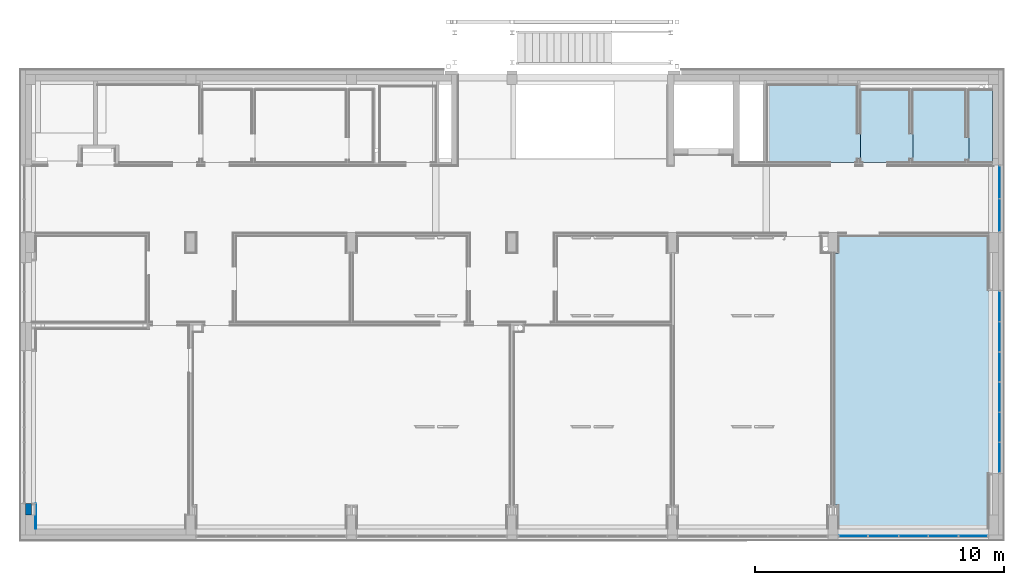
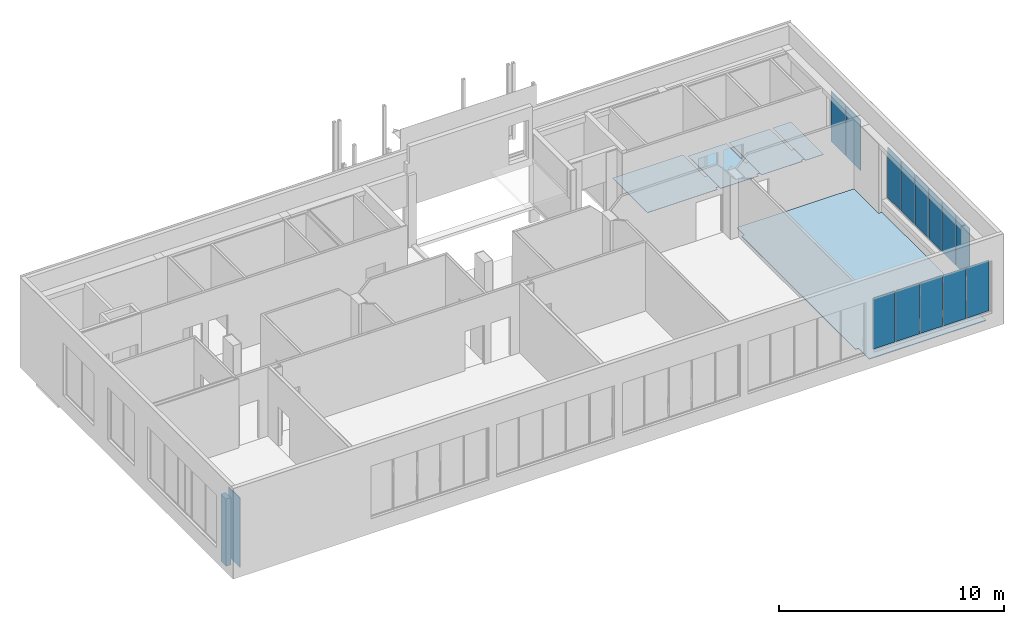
# One storey, part 15 of 29: 13 plates, 5 slabs, 2 walls, 3 elements without a shape of their own.
"""IFC2X3 building model written with IfcOpenShell, lengths in centimetres."""

from ifc_helpers import new_model, entity, si_unit, converted_unit, derived_unit, direction, frame, frame_2d, origin, origin_2d_with_axis, place, context, subcontext, project, spatial, polyline, rectangle, outline, extrude, source, transform, mapped, material, layer, layer_set, layer_usage, type_object, type_shapes, element, aggregate, save


model = new_model("IFC2X3")

# Units and contexts
model_context = context("Model", 3, precision=0.001, world=origin(), true_north=direction((6.12303176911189e-17, 1.0)))
body_context = subcontext(model_context, "Body", "Model", "MODEL_VIEW")
ifc_project = project(units=[si_unit("LENGTHUNIT", "METRE", prefix="CENTI"), si_unit("AREAUNIT", "SQUARE_METRE"), si_unit("VOLUMEUNIT", "CUBIC_METRE"), converted_unit("PLANEANGLEUNIT", "DEGREE", entity("IfcRatioMeasure", 0.0174532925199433), si_unit("PLANEANGLEUNIT", "RADIAN"), dimensions=[0, 0, 0, 0, 0, 0, 0]), si_unit("MASSUNIT", "GRAM", prefix="KILO"), derived_unit("MASSDENSITYUNIT", [(si_unit("MASSUNIT", "GRAM", prefix="KILO"), 1), (si_unit("LENGTHUNIT", "METRE"), -3)]), derived_unit("MOMENTOFINERTIAUNIT", [(si_unit("LENGTHUNIT", "METRE"), 4)]), si_unit("TIMEUNIT", "SECOND"), si_unit("FREQUENCYUNIT", "HERTZ"), si_unit("THERMODYNAMICTEMPERATUREUNIT", "DEGREE_CELSIUS"), derived_unit("THERMALTRANSMITTANCEUNIT", [(si_unit("MASSUNIT", "GRAM", prefix="KILO"), 1), (si_unit("THERMODYNAMICTEMPERATUREUNIT", "KELVIN"), -1), (si_unit("TIMEUNIT", "SECOND"), -3)]), derived_unit("VOLUMETRICFLOWRATEUNIT", [(si_unit("LENGTHUNIT", "METRE"), 3), (si_unit("TIMEUNIT", "SECOND"), -1)]), si_unit("ELECTRICCURRENTUNIT", "AMPERE"), si_unit("ELECTRICVOLTAGEUNIT", "VOLT"), si_unit("POWERUNIT", "WATT"), si_unit("FORCEUNIT", "NEWTON", prefix="KILO"), si_unit("ILLUMINANCEUNIT", "LUX"), si_unit("LUMINOUSFLUXUNIT", "LUMEN"), si_unit("LUMINOUSINTENSITYUNIT", "CANDELA"), derived_unit("USERDEFINED", [(si_unit("MASSUNIT", "GRAM", prefix="KILO"), -1), (si_unit("LENGTHUNIT", "METRE"), -2), (si_unit("TIMEUNIT", "SECOND"), 3), (si_unit("LUMINOUSFLUXUNIT", "LUMEN"), 1)]), derived_unit("LINEARVELOCITYUNIT", [(si_unit("LENGTHUNIT", "METRE"), 1), (si_unit("TIMEUNIT", "SECOND"), -1)]), si_unit("PRESSUREUNIT", "PASCAL"), derived_unit("USERDEFINED", [(si_unit("LENGTHUNIT", "METRE"), -2), (si_unit("MASSUNIT", "GRAM", prefix="KILO"), 1), (si_unit("TIMEUNIT", "SECOND"), -2)]), derived_unit("LINEARFORCEUNIT", [(si_unit("MASSUNIT", "GRAM", prefix="KILO"), 1), (si_unit("LENGTHUNIT", "METRE"), 1), (si_unit("TIMEUNIT", "SECOND"), -2), (si_unit("LENGTHUNIT", "METRE"), -1)]), derived_unit("PLANARFORCEUNIT", [(si_unit("MASSUNIT", "GRAM", prefix="KILO"), 1), (si_unit("LENGTHUNIT", "METRE"), 1), (si_unit("TIMEUNIT", "SECOND"), -2), (si_unit("LENGTHUNIT", "METRE"), -2)])], contexts=[model_context])

# Site, building, storey
site_placement = place(None, origin())
site = spatial("IfcSite", under=ifc_project, at=site_placement, Name="Default", CompositionType="ELEMENT")
building_placement = place(site_placement, origin())
building = spatial("IfcBuilding", under=site, at=building_placement, CompositionType="ELEMENT")
storey_placement = place(building_placement, frame((0.0, 0.0, 545.0)))
storey = spatial("IfcBuildingStorey", under=building, at=storey_placement, Name="Poziom 1K +5,45", CompositionType="ELEMENT", Elevation=544.999999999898)

# Slab
ifc_material_1 = material(Name="Panel płyty podłogowej")
ifc_layer_1 = layer(ifc_material_1, 4.0)
ifc_layer_set_1 = layer_set([ifc_layer_1], Name="Strop:Podłoga podniesiona gr. 4cm")
ifc_layer_usage_1 = layer_usage(ifc_layer_set_1, "AXIS3", "POSITIVE", 0.0)
slab_type_1 = type_object("IfcSlabType", Name="Strop:Podłoga podniesiona gr. 4cm", PredefinedType="FLOOR", material=ifc_layer_set_1)
slab_1_placement = place(storey_placement, origin())
element("IfcSlab", 1, at=slab_1_placement, inside=storey, type_object=slab_type_1, material=ifc_layer_usage_1, Name="Strop:Podłoga podniesiona gr. 4cm", ObjectType="Strop:Podłoga podniesiona gr. 4cm", PredefinedType="FLOOR", context=body_context, shape_type="SweptSolid", body=[
    extrude(outline(polyline([(-497.916370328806, -315.416670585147), (514.583629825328, -315.416670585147), (514.583629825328, -300.416670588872), (582.083629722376, -300.416670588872), (582.083629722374, 299.583340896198), (362.582640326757, 299.583340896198), (362.582640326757, 317.083341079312), (-368.417364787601, 317.083341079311), (-368.417364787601, 299.583329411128), (-592.916164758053, 299.583329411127), (-592.916164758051, -300.416670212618), (-497.916370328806, -300.416670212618), (-497.916370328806, -315.416670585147)])), frame((633.651549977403, 873.043822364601, 15.0), z_axis=(0.0, 0.0, -1.0), x_axis=(0.0, 1.0, 0.0)), (0.0, 0.0, 1.0), 3.99999999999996),
])

# Curtain wall, plates
curtain_wall_type = type_object("IfcCurtainWallType", PredefinedType="NOTDEFINED")
curtain_wall_1_placement = place(storey_placement, frame((0.0, 0.0, -545.0)))
curtain_wall_1 = element("IfcCurtainWall", 2, at=curtain_wall_1_placement, inside=storey, type_object=curtain_wall_type)
ifc_material_2 = material(Name="Szkło")
plate_type_1 = type_object("IfcPlateType", Name="Panel systemowy:Przeszklony", PredefinedType="CURTAIN_PANEL", material=ifc_material_2)
shared_shape_1 = source(origin(), body_context, "Body", "SweptSolid", [
    extrude(rectangle(XDim=2.5, YDim=118.4999790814, at=frame_2d((0.0, 3.5527136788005e-15), x_axis=(1.0, 0.0))), frame((0.0, 0.0, 0.0), z_axis=(0.0, 0.0, 1.0), x_axis=(0.0, 1.0, 0.0)), (0.0, 0.0, 1.0), 274.99999999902),
])
type_shapes(plate_type_1, [shared_shape_1])
plate_1_placement = place(curtain_wall_1_placement, frame((513.48780199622, 251.127657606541, 630.0)))
plate_1 = element("IfcPlate", 3, at=plate_1_placement, type_object=plate_type_1, material=ifc_material_2, Name="Panel systemowy:Przeszklony", ObjectType="Panel systemowy:Przeszklony", context=body_context, shape_type="MappedRepresentation", body=[
    mapped(shared_shape_1, transform((0.0, 0.0, 0.0), scale=1.0)),
])
plate_type_2 = type_object("IfcPlateType", Name="Panel systemowy:Przeszklony", PredefinedType="CURTAIN_PANEL", material=ifc_material_2)
shared_shape_2 = source(origin(), body_context, "Body", "SweptSolid", [
    extrude(rectangle(XDim=2.5, YDim=113.500007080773, at=origin_2d_with_axis()), frame((0.0, 0.0, 0.0), z_axis=(0.0, 0.0, 1.0), x_axis=(0.0, 1.0, 0.0)), (0.0, 0.0, 1.0), 274.99999999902),
])
type_shapes(plate_type_2, [shared_shape_2])
plate_2_placement = place(curtain_wall_1_placement, frame((634.487795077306, 251.127657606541, 630.0)))
plate_2 = element("IfcPlate", 4, at=plate_2_placement, type_object=plate_type_2, material=ifc_material_2, Name="Panel systemowy:Przeszklony", ObjectType="Panel systemowy:Przeszklony", context=body_context, shape_type="MappedRepresentation", body=[
    mapped(shared_shape_2, transform((0.0, 0.0, 0.0), scale=1.0)),
])
plate_type_3 = type_object("IfcPlateType", Name="Panel systemowy:Przeszklony", PredefinedType="CURTAIN_PANEL", material=ifc_material_2)
shared_shape_3 = source(origin(), body_context, "Body", "SweptSolid", [
    extrude(rectangle(XDim=2.5, YDim=115.999999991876, at=origin_2d_with_axis()), frame((0.0, 0.0, 0.0), z_axis=(0.0, 0.0, 1.0), x_axis=(0.0, 1.0, 0.0)), (0.0, 0.0, 1.0), 274.99999999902),
])
type_shapes(plate_type_3, [shared_shape_3])
plate_3_placement = place(curtain_wall_1_placement, frame((754.237798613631, 251.127657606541, 630.0)))
plate_3 = element("IfcPlate", 5, at=plate_3_placement, type_object=plate_type_3, material=ifc_material_2, Name="Panel systemowy:Przeszklony", ObjectType="Panel systemowy:Przeszklony", context=body_context, shape_type="MappedRepresentation", body=[
    mapped(shared_shape_3, transform((0.0, 0.0, 0.0), scale=1.0)),
])

curtain_wall_2_placement = place(storey_placement, frame((0.0, 0.0, -545.0)))
curtain_wall_2 = element("IfcCurtainWall", 6, at=curtain_wall_2_placement, inside=storey, type_object=curtain_wall_type)
plate_4_placement = place(curtain_wall_2_placement, frame((979.734891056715, 809.627246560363, 630.0), z_axis=(0.0, 0.0, 1.0), x_axis=(0.0, 1.0, 0.0)))
plate_4 = element("IfcPlate", 7, at=plate_4_placement, type_object=plate_type_3, material=ifc_material_2, Name="Panel systemowy:Przeszklony", ObjectType="Panel systemowy:Przeszklony", context=body_context, shape_type="MappedRepresentation", body=[
    mapped(shared_shape_3, transform((0.0, 0.0, 0.0), scale=1.0)),
])
plate_5_placement = place(curtain_wall_2_placement, frame((979.734891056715, 930.627246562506, 630.0), z_axis=(0.0, 0.0, 1.0), x_axis=(0.0, 1.0, 0.0)))
plate_5 = element("IfcPlate", 8, at=plate_5_placement, type_object=plate_type_3, material=ifc_material_2, Name="Panel systemowy:Przeszklony", ObjectType="Panel systemowy:Przeszklony", context=body_context, shape_type="MappedRepresentation", body=[
    mapped(shared_shape_3, transform((0.0, 0.0, 0.0), scale=1.0)),
])

# Plate
plate_type_4 = type_object("IfcPlateType", Name="Panel systemowy:Przeszklony", PredefinedType="CURTAIN_PANEL", material=ifc_material_2)
shared_shape_4 = source(origin(), body_context, "Body", "SweptSolid", [
    extrude(rectangle(XDim=2.5, YDim=113.502921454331, at=origin_2d_with_axis()), frame((0.0, 0.0, 0.0), z_axis=(0.0, 0.0, 1.0), x_axis=(0.0, 1.0, 0.0)), (0.0, 0.0, 1.0), 274.99999999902),
])
type_shapes(plate_type_4, [shared_shape_4])
plate_6_placement = place(curtain_wall_1_placement, frame((392.486351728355, 251.127657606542, 630.0)))
plate_6 = element("IfcPlate", 9, at=plate_6_placement, type_object=plate_type_4, material=ifc_material_2, Name="Panel systemowy:Przeszklony", ObjectType="Panel systemowy:Przeszklony", context=body_context, shape_type="MappedRepresentation", body=[
    mapped(shared_shape_4, transform((0.0, 0.0, 0.0), scale=1.0)),
])

plate_type_5 = type_object("IfcPlateType", Name="Panel systemowy:Przeszklony", PredefinedType="CURTAIN_PANEL", material=ifc_material_2)
shared_shape_5 = source(origin(), body_context, "Body", "SweptSolid", [
    extrude(rectangle(XDim=2.5, YDim=113.497093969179, at=origin_2d_with_axis()), frame((0.0, 0.0, 0.0), z_axis=(0.0, 0.0, 1.0), x_axis=(0.0, 1.0, 0.0)), (0.0, 0.0, 1.0), 274.99999999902),
])
type_shapes(plate_type_5, [shared_shape_5])
plate_7_placement = place(curtain_wall_1_placement, frame((873.986345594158, 251.12765760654, 630.0)))
plate_7 = element("IfcPlate", 10, at=plate_7_placement, type_object=plate_type_5, material=ifc_material_2, Name="Panel systemowy:Przeszklony", ObjectType="Panel systemowy:Przeszklony", context=body_context, shape_type="MappedRepresentation", body=[
    mapped(shared_shape_5, transform((0.0, 0.0, 0.0), scale=1.0)),
])

aggregate(curtain_wall_1, [plate_6, plate_1, plate_2, plate_3, plate_7])

plate_type_6 = type_object("IfcPlateType", Name="Panel systemowy:Przeszklony", PredefinedType="CURTAIN_PANEL", material=ifc_material_2)
shared_shape_6 = source(origin(), body_context, "Body", "SweptSolid", [
    extrude(rectangle(XDim=2.5, YDim=118.5, at=origin_2d_with_axis()), frame((0.0, 0.0, 0.0), z_axis=(0.0, 0.0, 1.0), x_axis=(0.0, 1.0, 0.0)), (0.0, 0.0, 1.0), 275.000000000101),
])
type_shapes(plate_type_6, [shared_shape_6])
plate_8_placement = place(curtain_wall_2_placement, frame((979.734891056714, 566.376457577, 630.0), z_axis=(0.0, 0.0, 1.0), x_axis=(0.0, 1.0, 0.0)))
plate_8 = element("IfcPlate", 11, at=plate_8_placement, type_object=plate_type_6, material=ifc_material_2, Name="Panel systemowy:Przeszklony", ObjectType="Panel systemowy:Przeszklony", context=body_context, shape_type="MappedRepresentation", body=[
    mapped(shared_shape_6, transform((0.0, 0.0, 0.0), scale=1.0)),
])

plate_type_7 = type_object("IfcPlateType", Name="Panel systemowy:Przeszklony", PredefinedType="CURTAIN_PANEL", material=ifc_material_2)
shared_shape_7 = source(origin(), body_context, "Body", "SweptSolid", [
    extrude(rectangle(XDim=2.5, YDim=116.000788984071, at=origin_2d_with_axis()), frame((0.0, 0.0, 0.0), z_axis=(0.0, 0.0, 1.0), x_axis=(0.0, 1.0, 0.0)), (0.0, 0.0, 1.0), 275.000000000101),
])
type_shapes(plate_type_7, [shared_shape_7])
plate_9_placement = place(curtain_wall_2_placement, frame((979.734891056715, 688.626852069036, 630.0), z_axis=(0.0, 0.0, 1.0), x_axis=(0.0, 1.0, 0.0)))
plate_9 = element("IfcPlate", 12, at=plate_9_placement, type_object=plate_type_7, material=ifc_material_2, Name="Panel systemowy:Przeszklony", ObjectType="Panel systemowy:Przeszklony", context=body_context, shape_type="MappedRepresentation", body=[
    mapped(shared_shape_7, transform((0.0, 0.0, 0.0), scale=1.0)),
])

plate_type_8 = type_object("IfcPlateType", Name="Panel systemowy:Przeszklony", PredefinedType="CURTAIN_PANEL", material=ifc_material_2)
shared_shape_8 = source(origin(), body_context, "Body", "SweptSolid", [
    extrude(rectangle(XDim=2.5, YDim=116.000204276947, at=origin_2d_with_axis()), frame((0.0, 0.0, 0.0), z_axis=(0.0, 0.0, 1.0), x_axis=(0.0, 1.0, 0.0)), (0.0, 0.0, 1.0), 275.000000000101),
])
type_shapes(plate_type_8, [shared_shape_8])
plate_10_placement = place(curtain_wall_2_placement, frame((979.734891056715, 1051.62734870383, 630.0), z_axis=(0.0, 0.0, 1.0), x_axis=(0.0, 1.0, 0.0)))
plate_10 = element("IfcPlate", 13, at=plate_10_placement, type_object=plate_type_8, material=ifc_material_2, Name="Panel systemowy:Przeszklony", ObjectType="Panel systemowy:Przeszklony", context=body_context, shape_type="MappedRepresentation", body=[
    mapped(shared_shape_8, transform((0.0, 0.0, 0.0), scale=1.0)),
])

plate_type_9 = type_object("IfcPlateType", Name="Panel systemowy:Przeszklony", PredefinedType="CURTAIN_PANEL", material=ifc_material_2)
shared_shape_9 = source(origin(), body_context, "Body", "SweptSolid", [
    extrude(rectangle(XDim=2.5, YDim=118.499006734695, at=origin_2d_with_axis()), frame((0.0, 0.0, 0.0), z_axis=(0.0, 0.0, 1.0), x_axis=(0.0, 1.0, 0.0)), (0.0, 0.0, 1.0), 275.000000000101),
])
type_shapes(plate_type_9, [shared_shape_9])
plate_11_placement = place(curtain_wall_2_placement, frame((979.734891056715, 1173.87695420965, 630.0), z_axis=(0.0, 0.0, 1.0), x_axis=(0.0, 1.0, 0.0)))
plate_11 = element("IfcPlate", 14, at=plate_11_placement, type_object=plate_type_9, material=ifc_material_2, Name="Panel systemowy:Przeszklony", ObjectType="Panel systemowy:Przeszklony", context=body_context, shape_type="MappedRepresentation", body=[
    mapped(shared_shape_9, transform((0.0, 0.0, 0.0), scale=1.0)),
])

aggregate(curtain_wall_2, [plate_8, plate_9, plate_4, plate_5, plate_10, plate_11])

# Curtain wall, plates
curtain_wall_3_placement = place(storey_placement, frame((0.0, 0.0, -545.0)))
curtain_wall_3 = element("IfcCurtainWall", 15, at=curtain_wall_3_placement, inside=storey, type_object=curtain_wall_type)
plate_type_10 = type_object("IfcPlateType", Name="Panel systemowy:Przeszklony", PredefinedType="CURTAIN_PANEL", material=ifc_material_2)
shared_shape_10 = source(origin(), body_context, "Body", "SweptSolid", [
    extrude(rectangle(XDim=2.5, YDim=128.999795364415, at=origin_2d_with_axis()), frame((0.0, 0.0, 0.0), z_axis=(0.0, 0.0, 1.0), x_axis=(0.0, 1.0, 0.0)), (0.0, 0.0, 1.0), 275.000000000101),
])
type_shapes(plate_type_10, [shared_shape_10])
plate_12_placement = place(curtain_wall_3_placement, frame((979.735011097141, 1539.62734859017, 630.0), z_axis=(0.0, 0.0, 1.0), x_axis=(0.0, 1.0, 0.0)))
plate_12 = element("IfcPlate", 16, at=plate_12_placement, type_object=plate_type_10, material=ifc_material_2, Name="Panel systemowy:Przeszklony", ObjectType="Panel systemowy:Przeszklony", context=body_context, shape_type="MappedRepresentation", body=[
    mapped(shared_shape_10, transform((0.0, 0.0, 0.0), scale=1.0)),
])
plate_type_11 = type_object("IfcPlateType", Name="Panel systemowy:Przeszklony", PredefinedType="CURTAIN_PANEL", material=ifc_material_2)
shared_shape_11 = source(origin(), body_context, "Body", "SweptSolid", [
    extrude(rectangle(XDim=2.5, YDim=129.000204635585, at=origin_2d_with_axis()), frame((0.0, 0.0, 0.0), z_axis=(0.0, 0.0, 1.0), x_axis=(0.0, 1.0, 0.0)), (0.0, 0.0, 1.0), 275.000000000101),
])
type_shapes(plate_type_11, [shared_shape_11])
plate_13_placement = place(curtain_wall_3_placement, frame((979.735011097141, 1673.62734859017, 630.0), z_axis=(0.0, 0.0, 1.0), x_axis=(0.0, 1.0, 0.0)))
plate_13 = element("IfcPlate", 17, at=plate_13_placement, type_object=plate_type_11, material=ifc_material_2, Name="Panel systemowy:Przeszklony", ObjectType="Panel systemowy:Przeszklony", context=body_context, shape_type="MappedRepresentation", body=[
    mapped(shared_shape_11, transform((0.0, 0.0, 0.0), scale=1.0)),
])
aggregate(curtain_wall_3, [plate_12, plate_13])

# Slabs
ifc_material_3 = material(Name="Gres")
ifc_layer_2 = layer(ifc_material_3, 2.0)
ifc_layer_set_2 = layer_set([ifc_layer_2], Name="Strop:Gres na kleju gr. 2cm")
ifc_layer_usage_2 = layer_usage(ifc_layer_set_2, "AXIS3", "POSITIVE", 0.0)
slab_type_2 = type_object("IfcSlabType", Name="Strop:Gres na kleju gr. 2cm", PredefinedType="FLOOR", material=ifc_layer_set_2)
slab_2_placement = place(storey_placement, origin())
element("IfcSlab", 18, at=slab_2_placement, inside=storey, type_object=slab_type_2, material=ifc_layer_usage_2, Name="Strop:Gres na kleju gr. 2cm", ObjectType="Strop:Gres na kleju gr. 2cm", PredefinedType="FLOOR", context=body_context, shape_type="SweptSolid", body=[
    extrude(rectangle(XDim=289.500000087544, YDim=93.9999999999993, at=frame_2d((0.0, -5.6843418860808e-14), x_axis=(1.0, 0.0))), frame((903.734879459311, 1897.87745214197, 15.0), z_axis=(0.0, 0.0, -1.0), x_axis=(0.0, 1.0, 0.0)), (0.0, 0.0, 1.0), 1.99999999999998),
])
ifc_layer_usage_3 = layer_usage(ifc_layer_set_2, "AXIS3", "POSITIVE", 0.0)
slab_type_3 = type_object("IfcSlabType", Name="Strop:Gres na kleju gr. 2cm", PredefinedType="FLOOR", material=ifc_layer_set_2)
slab_3_placement = place(storey_placement, origin())
element("IfcSlab", 19, at=slab_3_placement, inside=storey, type_object=slab_type_3, material=ifc_layer_usage_3, Name="Strop:Gres na kleju gr. 2cm", ObjectType="Strop:Gres na kleju gr. 2cm", PredefinedType="FLOOR", context=body_context, shape_type="SweptSolid", body=[
    extrude(outline(polyline([(-109.875000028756, -273.750000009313), (199.625000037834, -273.750000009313), (199.625000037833, 86.2499999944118), (5.12499999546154, 86.2499999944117), (5.12499999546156, 101.250000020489), (-94.8750000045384, 101.250000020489), (-94.8750000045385, 86.2499999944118), (-109.875000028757, 86.2499999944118), (-109.875000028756, -273.750000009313)])), frame((320.484879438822, 1863.00245201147, 15.0), z_axis=(0.0, 0.0, -1.0), x_axis=(0.0, 1.0, 0.0)), (0.0, 0.0, 1.0), 1.99999999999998),
])
ifc_layer_usage_4 = layer_usage(ifc_layer_set_2, "AXIS3", "POSITIVE", 0.0)
slab_type_4 = type_object("IfcSlabType", Name="Strop:Gres na kleju gr. 2cm", PredefinedType="FLOOR", material=ifc_layer_set_2)
slab_4_placement = place(storey_placement, origin())
element("IfcSlab", 20, at=slab_4_placement, inside=storey, type_object=slab_type_4, material=ifc_layer_usage_4, Name="Strop:Gres na kleju gr. 2cm", ObjectType="Strop:Gres na kleju gr. 2cm", PredefinedType="FLOOR", context=body_context, shape_type="SweptSolid", body=[
    extrude(outline(polyline([(-150.0, -184.625000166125), (45.0, -184.625000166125), (45.0, -10.1249999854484), (60.0, -10.1249999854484), (60.0, 89.8750000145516), (45.0, 89.8750000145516), (45.0, 104.875000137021), (-150.0, 104.875000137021), (-150.0, -184.625000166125)])), frame((571.734879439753, 1858.0024520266, 15.0), z_axis=(0.0, 0.0, -1.0), x_axis=(1.0, 0.0, 0.0)), (0.0, 0.0, 1.0), 1.99999999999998),
])
ifc_layer_usage_5 = layer_usage(ifc_layer_set_2, "AXIS3", "POSITIVE", 0.0)
slab_type_5 = type_object("IfcSlabType", Name="Strop:Gres na kleju gr. 2cm", PredefinedType="FLOOR", material=ifc_layer_set_2)
slab_5_placement = place(storey_placement, origin())
element("IfcSlab", 21, at=slab_5_placement, inside=storey, type_object=slab_type_5, material=ifc_layer_usage_5, Name="Strop:Gres na kleju gr. 2cm", ObjectType="Strop:Gres na kleju gr. 2cm", PredefinedType="FLOOR", context=body_context, shape_type="SweptSolid", body=[
    extrude(outline(polyline([(-161.250000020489, -189.625000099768), (48.7500000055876, -189.625000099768), (48.7500000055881, -0.125000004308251), (63.7500000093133, -0.125000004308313), (63.7500000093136, 89.8749999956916), (48.7500000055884, 89.8749999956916), (48.7500000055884, 99.8750001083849), (-161.250000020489, 99.8750001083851), (-161.250000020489, -189.625000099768)])), frame((792.984879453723, 1853.00245209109, 15.0), z_axis=(0.0, 0.0, -1.0), x_axis=(1.0, 0.0, 0.0)), (0.0, 0.0, 1.0), 1.99999999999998),
])

# Walls
ifc_material_4 = material(Name="_Beton C30/37")
ifc_layer_3 = layer(ifc_material_4, 25.0)
ifc_layer_set_3 = layer_set([ifc_layer_3], Name="Ściana podstawowa:Ściana żelbetowa gr. 25cm")
ifc_layer_usage_6 = layer_usage(ifc_layer_set_3, "AXIS2", "NEGATIVE", 12.5)
wall_type_1 = type_object("IfcWallType", Name="Ściana podstawowa:Ściana żelbetowa gr. 25cm", PredefinedType="STANDARD", material=ifc_layer_set_3)
wall_1_placement = place(storey_placement, frame((-2921.76510381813, 381.127450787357, 0.0), z_axis=(0.0, 0.0, 1.0), x_axis=(0.0, -1.0, 0.0)))
element("IfcWallStandardCase", 22, at=wall_1_placement, inside=storey, type_object=wall_type_1, material=ifc_layer_usage_6, Name="Ściana podstawowa:Ściana żelbetowa gr. 25cm", ObjectType="Ściana podstawowa:Ściana żelbetowa gr. 25cm", context=body_context, shape_type="SweptSolid", body=[
    extrude(rectangle(XDim=45.9997931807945, YDim=25.0000000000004, at=frame_2d((22.9998965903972, 0.0), x_axis=(-1.0, 0.0))), origin(), (0.0, 0.0, 1.0), 365.000000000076),
])
ifc_material_5 = material(Name="Tynk gipsowy")
ifc_layer_4 = layer(ifc_material_5, 2.5)
ifc_layer_set_4 = layer_set([ifc_layer_4], Name="Ściana podstawowa:Ściana GK wykonczenie gr. 2,5cm")
ifc_layer_usage_7 = layer_usage(ifc_layer_set_4, "AXIS2", "NEGATIVE", 1.25)
wall_type_2 = type_object("IfcWallType", Name="Ściana podstawowa:Ściana GK wykonczenie gr. 2,5cm", PredefinedType="STANDARD", material=ifc_layer_set_4)
wall_2_placement = place(storey_placement, frame((-2893.0151058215, 280.12765760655, 13.0), z_axis=(0.0, 0.0, 1.0), x_axis=(0.0, 1.0, 0.0)))
element("IfcWallStandardCase", 23, at=wall_2_placement, inside=storey, type_object=wall_type_2, material=ifc_layer_usage_7, Name="Ściana podstawowa:Ściana GK wykonczenie gr. 2,5cm", ObjectType="Ściana podstawowa:Ściana GK wykonczenie gr. 2,5cm", context=body_context, shape_type="SweptSolid", body=[
    extrude(rectangle(XDim=100.999793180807, YDim=2.5000000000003, at=frame_2d((50.4998965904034, 0.0), x_axis=(-1.0, 0.0))), origin(), (0.0, 0.0, 1.0), 377.000000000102),
])

save(model, "model.ifc")
